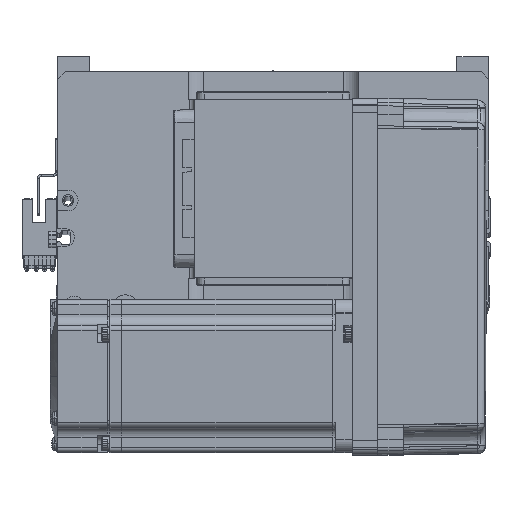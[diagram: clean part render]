
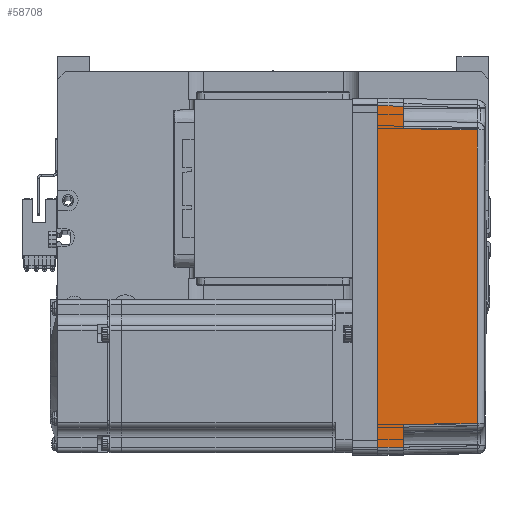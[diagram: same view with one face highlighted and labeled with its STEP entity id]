
A CAD part, top view. The second image highlights one B-rep face of the part: STEP entity #58708.
In plain terms, the highlighted planar face has unit normal (0.018, 0, 1) as drawn and (0, 1, 0.017) by its records, which use the part's own axes.
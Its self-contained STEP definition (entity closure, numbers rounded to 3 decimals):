
#2013 = CARTESIAN_POINT ( 'NONE',  ( 57.495, 35.32, 38.985 ) ) ;
#4072 = CARTESIAN_POINT ( 'NONE',  ( -58., 35.825, 10. ) ) ;
#4199 = CARTESIAN_POINT ( 'NONE',  ( -67., 36., 0. ) ) ;
#4347 = ORIENTED_EDGE ( 'NONE', *, *, #32282, .F. ) ;
#4480 = DIRECTION ( 'NONE',  ( -0.017, -0.017, 1. ) ) ;
#4520 = ORIENTED_EDGE ( 'NONE', *, *, #50254, .T. ) ;
#4770 = ORIENTED_EDGE ( 'NONE', *, *, #29634, .F. ) ;
#4947 = B_SPLINE_CURVE_WITH_KNOTS ( 'NONE', 3,
 ( #53129, #19320, #38902, #43783 ),
 .UNSPECIFIED., .F., .F.,
 ( 4, 4 ),
 ( 0., 1. ),
 .UNSPECIFIED. ) ;
#5124 = DIRECTION ( 'NONE',  ( 0., 1., 0.017 ) ) ;
#6251 = CARTESIAN_POINT ( 'NONE',  ( 70., 35.825, 10. ) ) ;
#6736 = CARTESIAN_POINT ( 'NONE',  ( 70., 35.825, 10. ) ) ;
#6877 = ORIENTED_EDGE ( 'NONE', *, *, #54195, .T. ) ;
#9271 = CARTESIAN_POINT ( 'NONE',  ( 66.826, 35.825, 10. ) ) ;
#10073 = DIRECTION ( 'NONE',  ( 0.017, -0.017, 1. ) ) ;
#11257 = LINE ( 'NONE', #18958, #57763 ) ;
#11276 = LINE ( 'NONE', #6251, #52435 ) ;
#13294 = VECTOR ( 'NONE', #10073, 1000. ) ;
#13345 = CARTESIAN_POINT ( 'NONE',  ( -67., 36., 0. ) ) ;
#13696 = LINE ( 'NONE', #2013, #51027 ) ;
#14676 = CARTESIAN_POINT ( 'NONE',  ( 70., 36., 0. ) ) ;
#14979 = EDGE_CURVE ( 'NONE', #59093, #34465, #11276, .T. ) ;
#18958 = CARTESIAN_POINT ( 'NONE',  ( 67.001, 36.001, -0.052 ) ) ;
#19156 = CARTESIAN_POINT ( 'NONE',  ( 58., 35.825, 10. ) ) ;
#19320 = CARTESIAN_POINT ( 'NONE',  ( -19.165, 35.316, 39.181 ) ) ;
#20754 = ORIENTED_EDGE ( 'NONE', *, *, #53719, .T. ) ;
#21711 = LINE ( 'NONE', #24967, #13294 ) ;
#24967 = CARTESIAN_POINT ( 'NONE',  ( -58., 35.825, 10. ) ) ;
#26114 = DIRECTION ( 'NONE',  ( 1., 0., 0. ) ) ;
#26534 = EDGE_LOOP ( 'NONE', ( #20754, #6877, #48176, #4520, #29383, #44564, #4347, #4770 ) ) ;
#26954 = VERTEX_POINT ( 'NONE', #62448 ) ;
#28947 = VECTOR ( 'NONE', #26114, 1000. ) ;
#29383 = ORIENTED_EDGE ( 'NONE', *, *, #36451, .T. ) ;
#29634 = EDGE_CURVE ( 'NONE', #33447, #57130, #39137, .T. ) ;
#29756 = CARTESIAN_POINT ( 'NONE',  ( 67., 36., 0. ) ) ;
#30706 = VERTEX_POINT ( 'NONE', #4072 ) ;
#31313 = LINE ( 'NONE', #13345, #36656 ) ;
#31484 = VECTOR ( 'NONE', #46995, 1000. ) ;
#32282 = EDGE_CURVE ( 'NONE', #57130, #34465, #11257, .T. ) ;
#33447 = VERTEX_POINT ( 'NONE', #4199 ) ;
#34465 = VERTEX_POINT ( 'NONE', #9271 ) ;
#36451 = EDGE_CURVE ( 'NONE', #26954, #59093, #13696, .T. ) ;
#36656 = VECTOR ( 'NONE', #42995, 1000. ) ;
#37448 = CARTESIAN_POINT ( 'NONE',  ( 0., 36., 0. ) ) ;
#38902 = CARTESIAN_POINT ( 'NONE',  ( 19.165, 35.316, 39.181 ) ) ;
#39137 = LINE ( 'NONE', #37448, #31484 ) ;
#41326 = FACE_OUTER_BOUND ( 'NONE', #26534, .T. ) ;
#42995 = DIRECTION ( 'NONE',  ( 0.017, -0.017, 1. ) ) ;
#43783 = CARTESIAN_POINT ( 'NONE',  ( 57.495, 35.32, 38.985 ) ) ;
#44564 = ORIENTED_EDGE ( 'NONE', *, *, #14979, .T. ) ;
#44806 = VERTEX_POINT ( 'NONE', #59761 ) ;
#46776 = VERTEX_POINT ( 'NONE', #51714 ) ;
#46995 = DIRECTION ( 'NONE',  ( 1., 0., 0. ) ) ;
#48176 = ORIENTED_EDGE ( 'NONE', *, *, #60509, .T. ) ;
#50254 = EDGE_CURVE ( 'NONE', #46776, #26954, #4947, .T. ) ;
#51027 = VECTOR ( 'NONE', #55225, 1000. ) ;
#51714 = CARTESIAN_POINT ( 'NONE',  ( -57.495, 35.32, 38.985 ) ) ;
#52435 = VECTOR ( 'NONE', #59474, 1000. ) ;
#53129 = CARTESIAN_POINT ( 'NONE',  ( -57.495, 35.32, 38.985 ) ) ;
#53719 = EDGE_CURVE ( 'NONE', #33447, #44806, #31313, .T. ) ;
#53851 = DIRECTION ( 'NONE',  ( 0., -0.017, 1. ) ) ;
#54195 = EDGE_CURVE ( 'NONE', #44806, #30706, #54822, .T. ) ;
#54822 = LINE ( 'NONE', #6736, #28947 ) ;
#55225 = DIRECTION ( 'NONE',  ( 0.017, 0.017, -1. ) ) ;
#57130 = VERTEX_POINT ( 'NONE', #29756 ) ;
#57763 = VECTOR ( 'NONE', #4480, 1000. ) ;
#58708 = ADVANCED_FACE ( 'NONE', ( #41326 ), #62822, .T. ) ;
#59093 = VERTEX_POINT ( 'NONE', #19156 ) ;
#59196 = AXIS2_PLACEMENT_3D ( 'NONE', #14676, #5124, #53851 ) ;
#59474 = DIRECTION ( 'NONE',  ( 1., 0., 0. ) ) ;
#59761 = CARTESIAN_POINT ( 'NONE',  ( -66.826, 35.825, 10. ) ) ;
#60509 = EDGE_CURVE ( 'NONE', #30706, #46776, #21711, .T. ) ;
#62448 = CARTESIAN_POINT ( 'NONE',  ( 57.495, 35.32, 38.985 ) ) ;
#62822 = PLANE ( 'NONE',  #59196 ) ;
